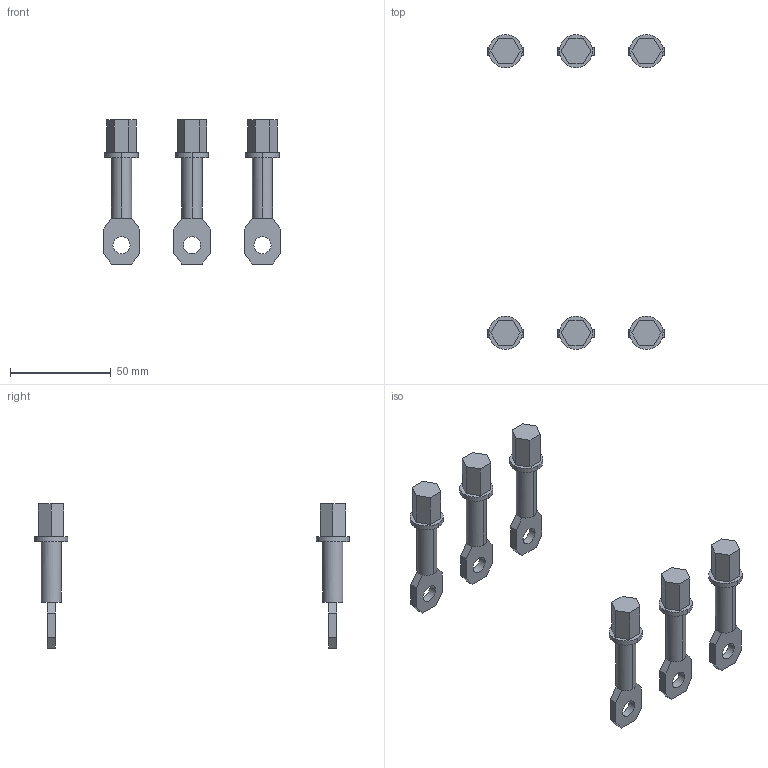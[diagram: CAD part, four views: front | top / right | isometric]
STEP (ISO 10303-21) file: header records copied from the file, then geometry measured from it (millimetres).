
FILE_DESCRIPTION (( 'STEP AP214' ), '1' );
FILE_NAME ('ÊÇÏ OptiMat D100, D160, D250 êîðîòêèé.STEP', '2023-04-26T11:22:35', ( '' ), ( '' ), 'SwSTEP 2.0', 'SolidWorks 2018', '' );
FILE_SCHEMA (( 'AUTOMOTIVE_DESIGN' ));
Length unit declared in the file: millimetre
Products named in the file (1): ÊÇÏ OptiMat D100, D160, D250 êîðîòêèé
Bounding box: 88 x 156.5 x 71.7 mm (x, y, z)
Volume: 38275.6 mm3; surface area: 18888.3 mm2
Topology: 6 solids, 6 shells, 180 faces, 432 edges, 276 vertices
Faces by surface type: plane 144, cylinder 36
Entity records: 7259 total; most frequent: DIRECTION 902, CARTESIAN_POINT 889, ORIENTED_EDGE 864, EDGE_CURVE 432, LINE 324, VECTOR 324, AXIS2_PLACEMENT_3D 289, VERTEX_POINT 276
